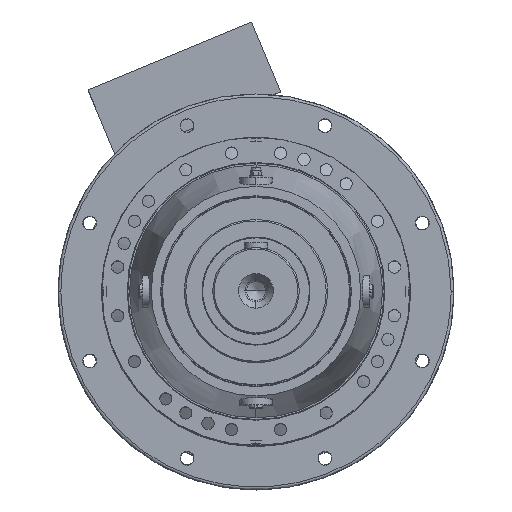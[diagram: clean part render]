
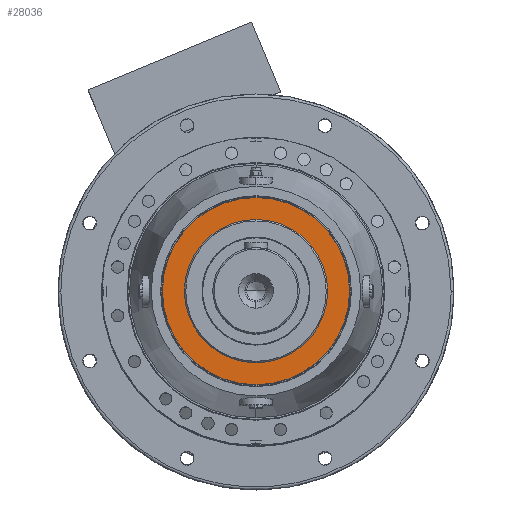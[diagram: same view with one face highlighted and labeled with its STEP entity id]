
A CAD part, top view. The second image highlights one B-rep face of the part: STEP entity #28036.
In plain terms, the highlighted planar face has unit normal (0, 0, 1).
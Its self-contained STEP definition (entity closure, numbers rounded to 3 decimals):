
#4825 = AXIS2_PLACEMENT_3D ( 'NONE', #85422, #85409, #85408 ) ;
#20440 = CIRCLE ( 'NONE', #21344, 99.5 ) ;
#20475 = CIRCLE ( 'NONE', #21352, 99.5 ) ;
#20480 = CIRCLE ( 'NONE', #21301, 130. ) ;
#20498 = CIRCLE ( 'NONE', #21342, 130. ) ;
#21301 = AXIS2_PLACEMENT_3D ( 'NONE', #31887, #31917, #31911 ) ;
#21342 = AXIS2_PLACEMENT_3D ( 'NONE', #31931, #31946, #31949 ) ;
#21344 = AXIS2_PLACEMENT_3D ( 'NONE', #31840, #31863, #31823 ) ;
#21352 = AXIS2_PLACEMENT_3D ( 'NONE', #31976, #31971, #31984 ) ;
#28036 = ADVANCED_FACE ( 'NONE', ( #86483, #86489 ), #85442, .F. ) ;
#31823 = DIRECTION ( 'NONE',  ( 0., 1., 0. ) ) ;
#31840 = CARTESIAN_POINT ( 'NONE',  ( 0., 0., 203. ) ) ;
#31863 = DIRECTION ( 'NONE',  ( 0., 0., 1. ) ) ;
#31887 = CARTESIAN_POINT ( 'NONE',  ( 0., 0., 203. ) ) ;
#31911 = DIRECTION ( 'NONE',  ( 0., 1., 0. ) ) ;
#31917 = DIRECTION ( 'NONE',  ( 0., 0., -1. ) ) ;
#31931 = CARTESIAN_POINT ( 'NONE',  ( 0., 0., 203. ) ) ;
#31946 = DIRECTION ( 'NONE',  ( 0., 0., -1. ) ) ;
#31949 = DIRECTION ( 'NONE',  ( 0., 1., 0. ) ) ;
#31971 = DIRECTION ( 'NONE',  ( 0., 0., 1. ) ) ;
#31976 = CARTESIAN_POINT ( 'NONE',  ( 0., 0., 203. ) ) ;
#31984 = DIRECTION ( 'NONE',  ( 0., 1., 0. ) ) ;
#38414 = EDGE_CURVE ( 'NONE', #88995, #89079, #20440, .T. ) ;
#38425 = EDGE_CURVE ( 'NONE', #88994, #88997, #20480, .T. ) ;
#38447 = EDGE_CURVE ( 'NONE', #88997, #88994, #20498, .T. ) ;
#38464 = EDGE_CURVE ( 'NONE', #89079, #88995, #20475, .T. ) ;
#44748 = ORIENTED_EDGE ( 'NONE', *, *, #38425, .F. ) ;
#44749 = ORIENTED_EDGE ( 'NONE', *, *, #38414, .F. ) ;
#44822 = ORIENTED_EDGE ( 'NONE', *, *, #38464, .F. ) ;
#44831 = ORIENTED_EDGE ( 'NONE', *, *, #38447, .F. ) ;
#46268 = CARTESIAN_POINT ( 'NONE',  ( 0., -99.5, 203. ) ) ;
#46279 = CARTESIAN_POINT ( 'NONE',  ( 0., 130., 203. ) ) ;
#46298 = CARTESIAN_POINT ( 'NONE',  ( 0., 99.5, 203. ) ) ;
#46308 = CARTESIAN_POINT ( 'NONE',  ( 0., -130., 203. ) ) ;
#73201 = EDGE_LOOP ( 'NONE', ( #44822, #44749 ) ) ;
#73207 = EDGE_LOOP ( 'NONE', ( #44748, #44831 ) ) ;
#85408 = DIRECTION ( 'NONE',  ( 0., 1., 0. ) ) ;
#85409 = DIRECTION ( 'NONE',  ( 0., 0., -1. ) ) ;
#85422 = CARTESIAN_POINT ( 'NONE',  ( 0., 130., 203. ) ) ;
#85442 = PLANE ( 'NONE',  #4825 ) ;
#86483 = FACE_BOUND ( 'NONE', #73201, .T. ) ;
#86489 = FACE_OUTER_BOUND ( 'NONE', #73207, .T. ) ;
#88994 = VERTEX_POINT ( 'NONE', #46279 ) ;
#88995 = VERTEX_POINT ( 'NONE', #46268 ) ;
#88997 = VERTEX_POINT ( 'NONE', #46308 ) ;
#89079 = VERTEX_POINT ( 'NONE', #46298 ) ;
